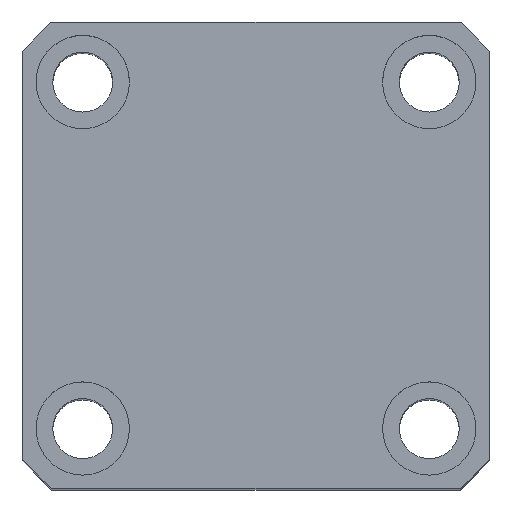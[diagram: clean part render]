
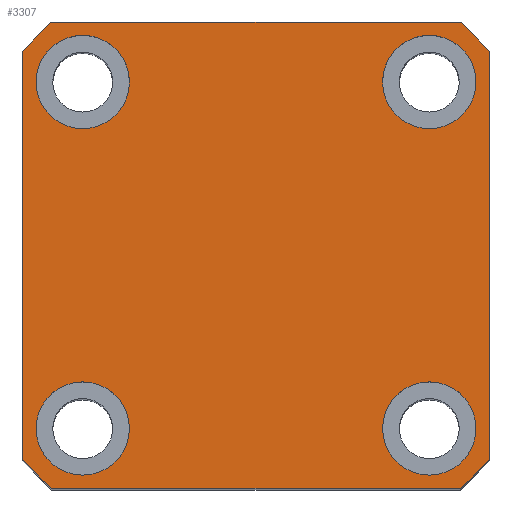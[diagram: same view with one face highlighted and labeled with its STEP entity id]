
A CAD part, top view. The second image highlights one B-rep face of the part: STEP entity #3307.
In plain terms, the highlighted planar face has unit normal (0, 0, 1).
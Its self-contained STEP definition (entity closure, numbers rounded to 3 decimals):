
#152 = VERTEX_POINT ( 'NONE', #960 ) ;
#162 = LINE ( 'NONE', #2753, #4270 ) ;
#180 = CARTESIAN_POINT ( 'NONE',  ( -35., 35., 130. ) ) ;
#427 = ORIENTED_EDGE ( 'NONE', *, *, #9934, .F. ) ;
#444 = CARTESIAN_POINT ( 'NONE',  ( 30.615, -35., 130. ) ) ;
#598 = CIRCLE ( 'NONE', #7329, 46.5 ) ;
#600 = VERTEX_POINT ( 'NONE', #7462 ) ;
#655 = VERTEX_POINT ( 'NONE', #8224 ) ;
#688 = ORIENTED_EDGE ( 'NONE', *, *, #878, .F. ) ;
#878 = EDGE_CURVE ( 'NONE', #152, #1643, #4077, .T. ) ;
#941 = DIRECTION ( 'NONE',  ( 0., 1., 0. ) ) ;
#960 = CARTESIAN_POINT ( 'NONE',  ( -19., 26., 130. ) ) ;
#1019 = EDGE_CURVE ( 'NONE', #655, #5359, #1270, .T. ) ;
#1079 = AXIS2_PLACEMENT_3D ( 'NONE', #9912, #5939, #8775 ) ;
#1168 = VERTEX_POINT ( 'NONE', #5695 ) ;
#1270 = CIRCLE ( 'NONE', #6800, 46.5 ) ;
#1362 = DIRECTION ( 'NONE',  ( 0., 0., 1. ) ) ;
#1373 = AXIS2_PLACEMENT_3D ( 'NONE', #5550, #2460, #7859 ) ;
#1383 = CARTESIAN_POINT ( 'NONE',  ( -26., -26., 130. ) ) ;
#1535 = EDGE_CURVE ( 'NONE', #4419, #655, #3440, .T. ) ;
#1555 = LINE ( 'NONE', #5583, #3603 ) ;
#1575 = EDGE_CURVE ( 'NONE', #9381, #5058, #5275, .T. ) ;
#1624 = DIRECTION ( 'NONE',  ( 0., 0., 1. ) ) ;
#1643 = VERTEX_POINT ( 'NONE', #9085 ) ;
#1722 = CIRCLE ( 'NONE', #3308, 46.5 ) ;
#1826 = ORIENTED_EDGE ( 'NONE', *, *, #1843, .T. ) ;
#1838 = DIRECTION ( 'NONE',  ( 1., 0., 0. ) ) ;
#1843 = EDGE_CURVE ( 'NONE', #4145, #7549, #598, .T. ) ;
#1872 = DIRECTION ( 'NONE',  ( 0., 0., 1. ) ) ;
#1874 = CARTESIAN_POINT ( 'NONE',  ( -26., 26., 130. ) ) ;
#1909 = FACE_BOUND ( 'NONE', #4868, .T. ) ;
#1990 = CARTESIAN_POINT ( 'NONE',  ( 26., 26., 130. ) ) ;
#2001 = ORIENTED_EDGE ( 'NONE', *, *, #4001, .T. ) ;
#2100 = CIRCLE ( 'NONE', #8708, 7. ) ;
#2159 = DIRECTION ( 'NONE',  ( 1., 0., 0. ) ) ;
#2254 = ORIENTED_EDGE ( 'NONE', *, *, #7551, .F. ) ;
#2297 = CARTESIAN_POINT ( 'NONE',  ( 26., -26., 130. ) ) ;
#2355 = CIRCLE ( 'NONE', #7182, 7. ) ;
#2460 = DIRECTION ( 'NONE',  ( 0., 0., 1. ) ) ;
#2558 = ORIENTED_EDGE ( 'NONE', *, *, #9482, .F. ) ;
#2577 = CARTESIAN_POINT ( 'NONE',  ( 0., 0., 130. ) ) ;
#2663 = DIRECTION ( 'NONE',  ( 1., 0., 0. ) ) ;
#2753 = CARTESIAN_POINT ( 'NONE',  ( -35., -35., 130. ) ) ;
#2784 = DIRECTION ( 'NONE',  ( 1., 0., 0. ) ) ;
#2858 = DIRECTION ( 'NONE',  ( -1., 0., 0. ) ) ;
#3079 = DIRECTION ( 'NONE',  ( 1., 0., 0. ) ) ;
#3207 = PLANE ( 'NONE',  #1373 ) ;
#3307 = ADVANCED_FACE ( 'NONE', ( #1909, #4005, #9913, #7857, #6309 ), #3207, .T. ) ;
#3308 = AXIS2_PLACEMENT_3D ( 'NONE', #8405, #3797, #9183 ) ;
#3440 = LINE ( 'NONE', #180, #7316 ) ;
#3512 = EDGE_CURVE ( 'NONE', #4216, #5765, #5083, .T. ) ;
#3603 = VECTOR ( 'NONE', #941, 1000. ) ;
#3664 = CARTESIAN_POINT ( 'NONE',  ( -35., 35., 130. ) ) ;
#3797 = DIRECTION ( 'NONE',  ( 0., 0., 1. ) ) ;
#3803 = CIRCLE ( 'NONE', #8367, 7. ) ;
#3870 = AXIS2_PLACEMENT_3D ( 'NONE', #1383, #6807, #2159 ) ;
#3905 = DIRECTION ( 'NONE',  ( 0., 0., 1. ) ) ;
#3985 = DIRECTION ( 'NONE',  ( 0., -1., 0. ) ) ;
#4001 = EDGE_CURVE ( 'NONE', #7549, #600, #1555, .T. ) ;
#4005 = FACE_BOUND ( 'NONE', #7258, .T. ) ;
#4077 = CIRCLE ( 'NONE', #1079, 7. ) ;
#4145 = VERTEX_POINT ( 'NONE', #444 ) ;
#4216 = VERTEX_POINT ( 'NONE', #8200 ) ;
#4270 = VECTOR ( 'NONE', #8133, 1000. ) ;
#4299 = DIRECTION ( 'NONE',  ( 0., 0., 1. ) ) ;
#4310 = EDGE_CURVE ( 'NONE', #600, #9381, #4474, .T. ) ;
#4419 = VERTEX_POINT ( 'NONE', #8371 ) ;
#4437 = VERTEX_POINT ( 'NONE', #9155 ) ;
#4446 = ORIENTED_EDGE ( 'NONE', *, *, #1019, .T. ) ;
#4474 = CIRCLE ( 'NONE', #4641, 46.5 ) ;
#4520 = CIRCLE ( 'NONE', #8099, 7. ) ;
#4641 = AXIS2_PLACEMENT_3D ( 'NONE', #6013, #1362, #6781 ) ;
#4655 = AXIS2_PLACEMENT_3D ( 'NONE', #1990, #7406, #2784 ) ;
#4750 = ORIENTED_EDGE ( 'NONE', *, *, #9200, .F. ) ;
#4800 = CARTESIAN_POINT ( 'NONE',  ( 33., 26., 130. ) ) ;
#4816 = ORIENTED_EDGE ( 'NONE', *, *, #6443, .T. ) ;
#4868 = EDGE_LOOP ( 'NONE', ( #427, #6324 ) ) ;
#4893 = VERTEX_POINT ( 'NONE', #4800 ) ;
#4927 = ORIENTED_EDGE ( 'NONE', *, *, #1535, .T. ) ;
#5027 = VECTOR ( 'NONE', #2858, 1000. ) ;
#5053 = ORIENTED_EDGE ( 'NONE', *, *, #8380, .F. ) ;
#5058 = VERTEX_POINT ( 'NONE', #8910 ) ;
#5083 = CIRCLE ( 'NONE', #8088, 7. ) ;
#5262 = CIRCLE ( 'NONE', #3870, 7. ) ;
#5275 = LINE ( 'NONE', #3664, #5027 ) ;
#5359 = VERTEX_POINT ( 'NONE', #8543 ) ;
#5550 = CARTESIAN_POINT ( 'NONE',  ( 0., 0., 130. ) ) ;
#5583 = CARTESIAN_POINT ( 'NONE',  ( 35., 35., 130. ) ) ;
#5695 = CARTESIAN_POINT ( 'NONE',  ( 19., -26., 130. ) ) ;
#5765 = VERTEX_POINT ( 'NONE', #8342 ) ;
#5939 = DIRECTION ( 'NONE',  ( 0., 0., 1. ) ) ;
#6013 = CARTESIAN_POINT ( 'NONE',  ( 0., 0., 130. ) ) ;
#6283 = EDGE_LOOP ( 'NONE', ( #688, #2254 ) ) ;
#6290 = CARTESIAN_POINT ( 'NONE',  ( 26., 26., 130. ) ) ;
#6309 = FACE_OUTER_BOUND ( 'NONE', #8984, .T. ) ;
#6324 = ORIENTED_EDGE ( 'NONE', *, *, #3512, .F. ) ;
#6443 = EDGE_CURVE ( 'NONE', #5359, #4145, #162, .T. ) ;
#6702 = EDGE_CURVE ( 'NONE', #5058, #4419, #1722, .T. ) ;
#6729 = EDGE_LOOP ( 'NONE', ( #8546, #5053 ) ) ;
#6781 = DIRECTION ( 'NONE',  ( 1., 0., 0. ) ) ;
#6800 = AXIS2_PLACEMENT_3D ( 'NONE', #2577, #1872, #1838 ) ;
#6807 = DIRECTION ( 'NONE',  ( 0., 0., 1. ) ) ;
#7057 = DIRECTION ( 'NONE',  ( 1., 0., 0. ) ) ;
#7182 = AXIS2_PLACEMENT_3D ( 'NONE', #8513, #3905, #9292 ) ;
#7225 = ORIENTED_EDGE ( 'NONE', *, *, #6702, .T. ) ;
#7258 = EDGE_LOOP ( 'NONE', ( #4750, #2558 ) ) ;
#7295 = DIRECTION ( 'NONE',  ( 0., 0., 1. ) ) ;
#7316 = VECTOR ( 'NONE', #3985, 1000. ) ;
#7329 = AXIS2_PLACEMENT_3D ( 'NONE', #8934, #10005, #9727 ) ;
#7406 = DIRECTION ( 'NONE',  ( 0., 0., 1. ) ) ;
#7445 = ORIENTED_EDGE ( 'NONE', *, *, #1575, .T. ) ;
#7462 = CARTESIAN_POINT ( 'NONE',  ( 35., 30.615, 130. ) ) ;
#7549 = VERTEX_POINT ( 'NONE', #8022 ) ;
#7551 = EDGE_CURVE ( 'NONE', #1643, #152, #4520, .T. ) ;
#7707 = DIRECTION ( 'NONE',  ( 0., 0., 1. ) ) ;
#7857 = FACE_BOUND ( 'NONE', #6283, .T. ) ;
#7859 = DIRECTION ( 'NONE',  ( 1., 0., 0. ) ) ;
#8022 = CARTESIAN_POINT ( 'NONE',  ( 35., -30.615, 130. ) ) ;
#8088 = AXIS2_PLACEMENT_3D ( 'NONE', #8907, #4299, #9693 ) ;
#8099 = AXIS2_PLACEMENT_3D ( 'NONE', #1874, #7295, #2663 ) ;
#8133 = DIRECTION ( 'NONE',  ( 1., 0., 0. ) ) ;
#8200 = CARTESIAN_POINT ( 'NONE',  ( -33., -26., 130. ) ) ;
#8224 = CARTESIAN_POINT ( 'NONE',  ( -35., -30.615, 130. ) ) ;
#8342 = CARTESIAN_POINT ( 'NONE',  ( -19., -26., 130. ) ) ;
#8367 = AXIS2_PLACEMENT_3D ( 'NONE', #2297, #7707, #3079 ) ;
#8371 = CARTESIAN_POINT ( 'NONE',  ( -35., 30.615, 130. ) ) ;
#8380 = EDGE_CURVE ( 'NONE', #9228, #4893, #9321, .T. ) ;
#8405 = CARTESIAN_POINT ( 'NONE',  ( 0., 0., 130. ) ) ;
#8513 = CARTESIAN_POINT ( 'NONE',  ( 26., -26., 130. ) ) ;
#8543 = CARTESIAN_POINT ( 'NONE',  ( -30.615, -35., 130. ) ) ;
#8546 = ORIENTED_EDGE ( 'NONE', *, *, #9532, .F. ) ;
#8708 = AXIS2_PLACEMENT_3D ( 'NONE', #6290, #1624, #7057 ) ;
#8775 = DIRECTION ( 'NONE',  ( 1., 0., 0. ) ) ;
#8907 = CARTESIAN_POINT ( 'NONE',  ( -26., -26., 130. ) ) ;
#8910 = CARTESIAN_POINT ( 'NONE',  ( -30.615, 35., 130. ) ) ;
#8934 = CARTESIAN_POINT ( 'NONE',  ( 0., 0., 130. ) ) ;
#8984 = EDGE_LOOP ( 'NONE', ( #2001, #9753, #7445, #7225, #4927, #4446, #4816, #1826 ) ) ;
#9085 = CARTESIAN_POINT ( 'NONE',  ( -33., 26., 130. ) ) ;
#9155 = CARTESIAN_POINT ( 'NONE',  ( 33., -26., 130. ) ) ;
#9183 = DIRECTION ( 'NONE',  ( 1., 0., 0. ) ) ;
#9200 = EDGE_CURVE ( 'NONE', #4437, #1168, #3803, .T. ) ;
#9209 = CARTESIAN_POINT ( 'NONE',  ( 19., 26., 130. ) ) ;
#9228 = VERTEX_POINT ( 'NONE', #9209 ) ;
#9292 = DIRECTION ( 'NONE',  ( 1., 0., 0. ) ) ;
#9321 = CIRCLE ( 'NONE', #4655, 7. ) ;
#9381 = VERTEX_POINT ( 'NONE', #9884 ) ;
#9482 = EDGE_CURVE ( 'NONE', #1168, #4437, #2355, .T. ) ;
#9532 = EDGE_CURVE ( 'NONE', #4893, #9228, #2100, .T. ) ;
#9693 = DIRECTION ( 'NONE',  ( 1., 0., 0. ) ) ;
#9727 = DIRECTION ( 'NONE',  ( 1., 0., 0. ) ) ;
#9753 = ORIENTED_EDGE ( 'NONE', *, *, #4310, .T. ) ;
#9884 = CARTESIAN_POINT ( 'NONE',  ( 30.615, 35., 130. ) ) ;
#9912 = CARTESIAN_POINT ( 'NONE',  ( -26., 26., 130. ) ) ;
#9913 = FACE_BOUND ( 'NONE', #6729, .T. ) ;
#9934 = EDGE_CURVE ( 'NONE', #5765, #4216, #5262, .T. ) ;
#10005 = DIRECTION ( 'NONE',  ( 0., 0., 1. ) ) ;
